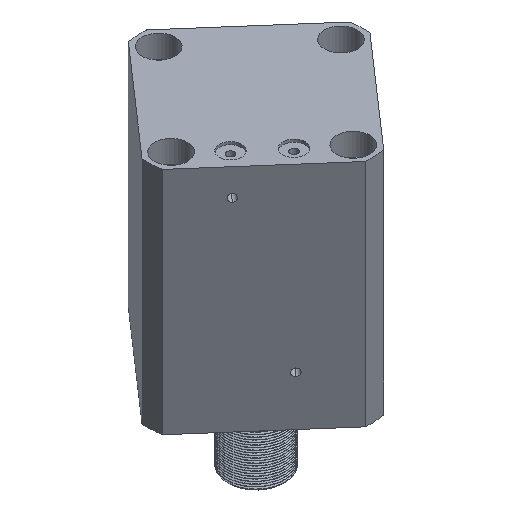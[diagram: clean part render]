
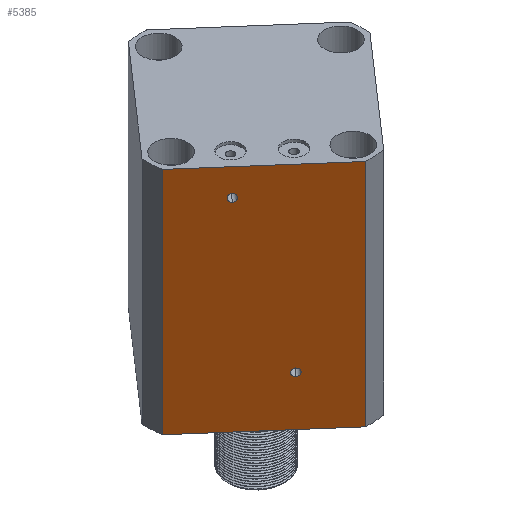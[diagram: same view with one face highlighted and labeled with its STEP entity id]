
A CAD part, isometric view. The second image highlights one B-rep face of the part: STEP entity #5385.
In plain terms, the highlighted planar face has unit normal (-0.658, -0.753, 0) as drawn and (0, 1, 0) by its records, which use the part's own axes.
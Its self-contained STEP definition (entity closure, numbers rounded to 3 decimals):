
#66 = ORIENTED_EDGE ( 'NONE', *, *, #15231, .F. ) ;
#615 = CARTESIAN_POINT ( 'NONE',  ( 15., 57., 117.5 ) ) ;
#658 = AXIS2_PLACEMENT_3D ( 'NONE', #14286, #4817, #15870 ) ;
#769 = DIRECTION ( 'NONE',  ( 0., 1., 0. ) ) ;
#901 = EDGE_LOOP ( 'NONE', ( #66, #12776 ) ) ;
#1119 = LINE ( 'NONE', #6361, #16960 ) ;
#1547 = VERTEX_POINT ( 'NONE', #4175 ) ;
#2050 = CIRCLE ( 'NONE', #6766, 2.5 ) ;
#2500 = EDGE_LOOP ( 'NONE', ( #5524, #15939 ) ) ;
#2933 = AXIS2_PLACEMENT_3D ( 'NONE', #3342, #14400, #4921 ) ;
#3153 = ORIENTED_EDGE ( 'NONE', *, *, #5324, .F. ) ;
#3342 = CARTESIAN_POINT ( 'NONE',  ( -15., 57., 18. ) ) ;
#3813 = VECTOR ( 'NONE', #7812, 1000. ) ;
#3834 = FACE_BOUND ( 'NONE', #901, .T. ) ;
#3850 = CIRCLE ( 'NONE', #658, 2.5 ) ;
#4175 = CARTESIAN_POINT ( 'NONE',  ( -47.971, 57., 153. ) ) ;
#4226 = EDGE_CURVE ( 'NONE', #12541, #8003, #3850, .T. ) ;
#4259 = DIRECTION ( 'NONE',  ( 0., 1., 0. ) ) ;
#4333 = FACE_OUTER_BOUND ( 'NONE', #19502, .T. ) ;
#4792 = DIRECTION ( 'NONE',  ( 0., 0., -1. ) ) ;
#4817 = DIRECTION ( 'NONE',  ( 0., 1., 0. ) ) ;
#4921 = DIRECTION ( 'NONE',  ( 0., 0., 1. ) ) ;
#5232 = ORIENTED_EDGE ( 'NONE', *, *, #11162, .F. ) ;
#5324 = EDGE_CURVE ( 'NONE', #1547, #5423, #1119, .T. ) ;
#5385 = ADVANCED_FACE ( 'NONE', ( #3834, #20159, #4333 ), #5714, .F. ) ;
#5423 = VERTEX_POINT ( 'NONE', #18369 ) ;
#5524 = ORIENTED_EDGE ( 'NONE', *, *, #18310, .F. ) ;
#5566 = CARTESIAN_POINT ( 'NONE',  ( -15., 57., 20.5 ) ) ;
#5714 = PLANE ( 'NONE',  #14309 ) ;
#5772 = VECTOR ( 'NONE', #14025, 1000. ) ;
#6361 = CARTESIAN_POINT ( 'NONE',  ( -47.971, 57., -147. ) ) ;
#6597 = EDGE_CURVE ( 'NONE', #8184, #1547, #12749, .T. ) ;
#6766 = AXIS2_PLACEMENT_3D ( 'NONE', #10271, #769, #11856 ) ;
#7098 = DIRECTION ( 'NONE',  ( 0., 0., 1. ) ) ;
#7665 = ORIENTED_EDGE ( 'NONE', *, *, #8229, .T. ) ;
#7812 = DIRECTION ( 'NONE',  ( -1., 0., 0. ) ) ;
#8003 = VERTEX_POINT ( 'NONE', #8978 ) ;
#8184 = VERTEX_POINT ( 'NONE', #10789 ) ;
#8229 = EDGE_CURVE ( 'NONE', #10034, #5423, #10005, .T. ) ;
#8545 = CARTESIAN_POINT ( 'NONE',  ( -57., 57., 153. ) ) ;
#8978 = CARTESIAN_POINT ( 'NONE',  ( 15., 57., 122.5 ) ) ;
#9425 = CARTESIAN_POINT ( 'NONE',  ( -57., 57., 153. ) ) ;
#10005 = LINE ( 'NONE', #18731, #5772 ) ;
#10034 = VERTEX_POINT ( 'NONE', #14509 ) ;
#10271 = CARTESIAN_POINT ( 'NONE',  ( 15., 57., 120. ) ) ;
#10408 = VERTEX_POINT ( 'NONE', #5566 ) ;
#10512 = DIRECTION ( 'NONE',  ( 0., 0., -1. ) ) ;
#10789 = CARTESIAN_POINT ( 'NONE',  ( 47.971, 57., 153. ) ) ;
#11162 = EDGE_CURVE ( 'NONE', #10034, #8184, #14395, .T. ) ;
#11549 = CARTESIAN_POINT ( 'NONE',  ( 47.971, 57., -147. ) ) ;
#11856 = DIRECTION ( 'NONE',  ( 0., 0., 1. ) ) ;
#11865 = AXIS2_PLACEMENT_3D ( 'NONE', #13751, #4259, #15339 ) ;
#12541 = VERTEX_POINT ( 'NONE', #615 ) ;
#12749 = LINE ( 'NONE', #9425, #3813 ) ;
#12776 = ORIENTED_EDGE ( 'NONE', *, *, #4226, .F. ) ;
#13608 = ORIENTED_EDGE ( 'NONE', *, *, #6597, .F. ) ;
#13751 = CARTESIAN_POINT ( 'NONE',  ( -15., 57., 18. ) ) ;
#13902 = VECTOR ( 'NONE', #7098, 1000. ) ;
#14025 = DIRECTION ( 'NONE',  ( -1., 0., 0. ) ) ;
#14286 = CARTESIAN_POINT ( 'NONE',  ( 15., 57., 120. ) ) ;
#14309 = AXIS2_PLACEMENT_3D ( 'NONE', #8545, #19961, #10512 ) ;
#14395 = LINE ( 'NONE', #11549, #13902 ) ;
#14400 = DIRECTION ( 'NONE',  ( 0., 1., 0. ) ) ;
#14509 = CARTESIAN_POINT ( 'NONE',  ( 47.971, 57., 0. ) ) ;
#14913 = EDGE_CURVE ( 'NONE', #16245, #10408, #16154, .T. ) ;
#15119 = CIRCLE ( 'NONE', #11865, 2.5 ) ;
#15231 = EDGE_CURVE ( 'NONE', #8003, #12541, #2050, .T. ) ;
#15339 = DIRECTION ( 'NONE',  ( 0., 0., 1. ) ) ;
#15870 = DIRECTION ( 'NONE',  ( 0., 0., 1. ) ) ;
#15939 = ORIENTED_EDGE ( 'NONE', *, *, #14913, .F. ) ;
#16154 = CIRCLE ( 'NONE', #2933, 2.5 ) ;
#16245 = VERTEX_POINT ( 'NONE', #16844 ) ;
#16844 = CARTESIAN_POINT ( 'NONE',  ( -15., 57., 15.5 ) ) ;
#16960 = VECTOR ( 'NONE', #4792, 1000. ) ;
#18310 = EDGE_CURVE ( 'NONE', #10408, #16245, #15119, .T. ) ;
#18369 = CARTESIAN_POINT ( 'NONE',  ( -47.971, 57., 0. ) ) ;
#18731 = CARTESIAN_POINT ( 'NONE',  ( -57., 57., 0. ) ) ;
#19502 = EDGE_LOOP ( 'NONE', ( #5232, #7665, #3153, #13608 ) ) ;
#19961 = DIRECTION ( 'NONE',  ( 0., -1., 0. ) ) ;
#20159 = FACE_BOUND ( 'NONE', #2500, .T. ) ;
